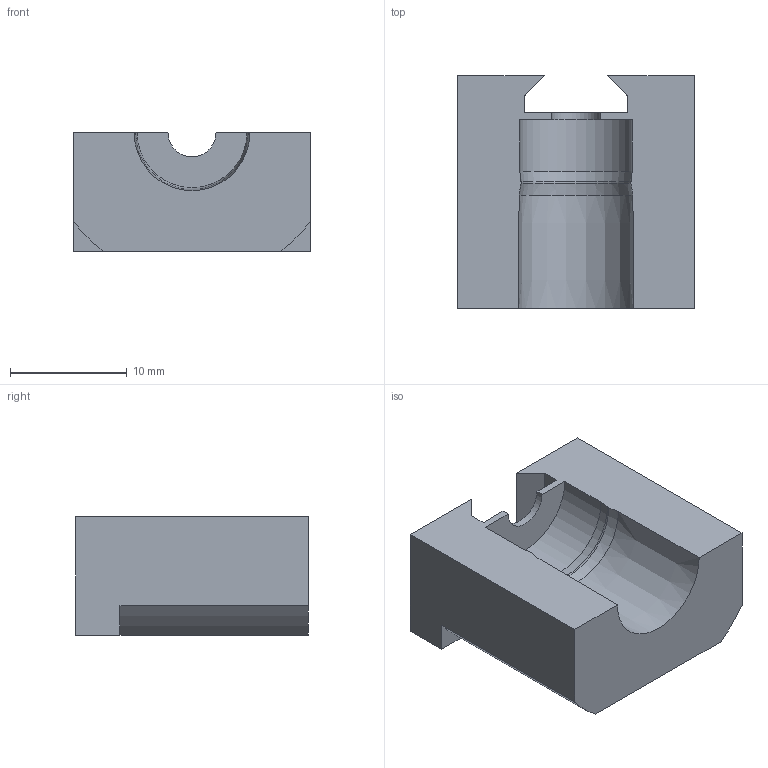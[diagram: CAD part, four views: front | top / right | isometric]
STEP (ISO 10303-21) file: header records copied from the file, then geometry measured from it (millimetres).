
FILE_DESCRIPTION(/* description */ (''),/* implementation_level */ '2;1');
FILE_NAME(/* name */ 'D:\~~GatCad\BWA - Ammo\BWA-Ammo V1.0\STEP\Case Sizer Right.stp',/* time_stamp */ '2020-06-11T18:31:44-05:00',/* author */ ('johne'),/* organization */ (''),/* preprocessor_version */ 'ST-DEVELOPER v18',/* originating_system */ 'Autodesk Inventor 2020',/* authorisation */ '');
FILE_SCHEMA (('AUTOMOTIVE_DESIGN { 1 0 10303 214 3 1 1 }'));
Length unit declared in the file: inch
Products named in the file (1): Case Tool Part 2
Bounding box: 20.32 x 19.98 x 10.16 mm (x, y, z)
Volume: 3163 mm3; surface area: 1723.6 mm2
Topology: 1 solids, 1 shells, 24 faces, 66 edges, 44 vertices
Faces by surface type: plane 16, cylinder 4, cone 2, torus 1, bspline 1
Entity records: 819 total; most frequent: CARTESIAN_POINT 149, ORIENTED_EDGE 132, DIRECTION 130, EDGE_CURVE 66, LINE 50, VECTOR 50, VERTEX_POINT 44, AXIS2_PLACEMENT_3D 40
